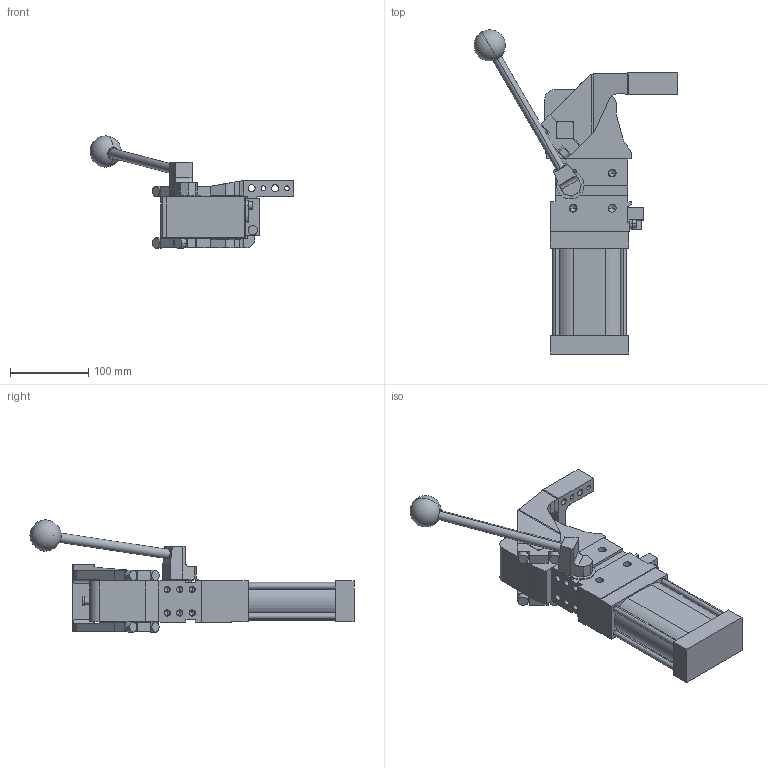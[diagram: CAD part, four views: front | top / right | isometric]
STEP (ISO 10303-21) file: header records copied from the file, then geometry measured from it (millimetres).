
FILE_DESCRIPTION (( 'STEP AP214' ), '1' );
FILE_NAME ('cplm63lav3ssi1g_26.STEP', '2023-01-26T14:59:40', ( '' ), ( '' ), 'SwSTEP 2.0', 'SolidWorks 2022', '' );
FILE_SCHEMA (( 'AUTOMOTIVE_DESIGN' ));
Length unit declared in the file: millimetre
Products named in the file (5): cplm63lav3ssi1g_26; blocchetto_VEP_0; comando_manuale_cplm_63; meccanica_cplm_63; leva_dx_offset_45_cpl63
Assembly tree (4 placements, depth 2):
  cplm63lav3ssi1g_26
    meccanica_cplm_63
    blocchetto_VEP_0
    leva_dx_offset_45_cpl63
    comando_manuale_cplm_63
Bounding box: 260.57 x 414.56 x 143.5 mm (x, y, z)
Volume: 1887764.5 mm3; surface area: 211438.7 mm2
Topology: 4 solids, 4 shells, 432 faces, 1134 edges, 703 vertices
Faces by surface type: plane 219, cylinder 161, cone 50, sphere 2
Entity records: 14577 total; most frequent: CARTESIAN_POINT 2322, DIRECTION 2302, ORIENTED_EDGE 2166, EDGE_CURVE 1083, AXIS2_PLACEMENT_3D 794, LINE 714, VECTOR 714, VERTEX_POINT 700
